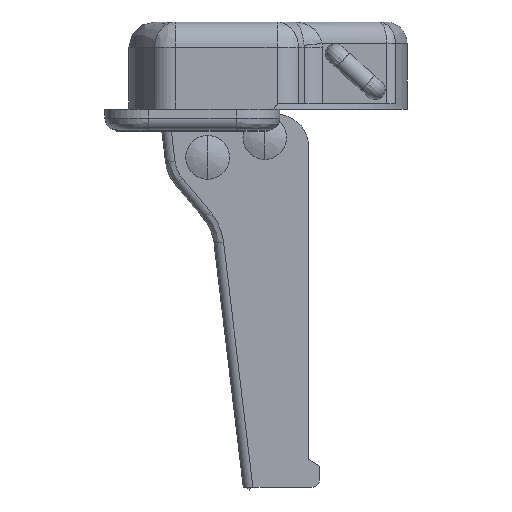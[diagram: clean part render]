
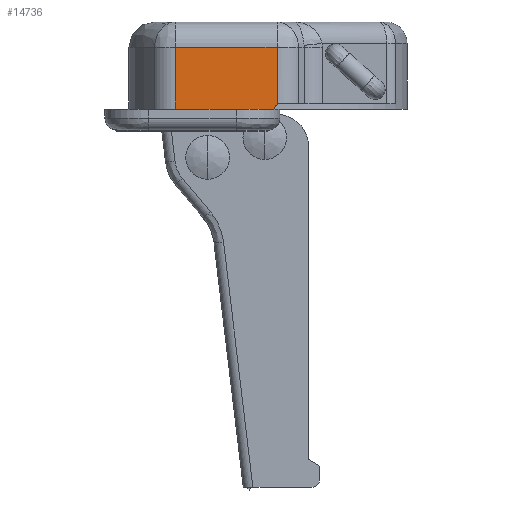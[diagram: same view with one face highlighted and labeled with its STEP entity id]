
A CAD part, left-side view. The second image highlights one B-rep face of the part: STEP entity #14736.
In plain terms, the highlighted planar face has unit normal (-1, 0, 0).
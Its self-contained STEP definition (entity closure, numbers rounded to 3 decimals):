
#1519 = ORIENTED_EDGE ( 'NONE', *, *, #25552, .T. ) ;
#1520 = ORIENTED_EDGE ( 'NONE', *, *, #25448, .F. ) ;
#1521 = ORIENTED_EDGE ( 'NONE', *, *, #25554, .T. ) ;
#1522 = ORIENTED_EDGE ( 'NONE', *, *, #25553, .F. ) ;
#1523 = ORIENTED_EDGE ( 'NONE', *, *, #25449, .F. ) ;
#1524 = ORIENTED_EDGE ( 'NONE', *, *, #25555, .T. ) ;
#3830 = LINE ( 'NONE', #24905, #3832 ) ;
#3831 = LINE ( 'NONE', #24907, #3834 ) ;
#3832 = VECTOR ( 'NONE', #24906, 1000. ) ;
#3834 = VECTOR ( 'NONE', #24908, 1000. ) ;
#4020 = CIRCLE ( 'NONE', #22511, 0.7 ) ;
#4027 = LINE ( 'NONE', #18178, #4030 ) ;
#4029 = LINE ( 'NONE', #18181, #4033 ) ;
#4030 = VECTOR ( 'NONE', #18180, 1000. ) ;
#4032 = LINE ( 'NONE', #18185, #4035 ) ;
#4033 = VECTOR ( 'NONE', #18179, 1000. ) ;
#4035 = VECTOR ( 'NONE', #18186, 1000. ) ;
#5560 = VERTEX_POINT ( 'NONE', #20078 ) ;
#5563 = VERTEX_POINT ( 'NONE', #20081 ) ;
#5591 = VERTEX_POINT ( 'NONE', #20109 ) ;
#5904 = EDGE_LOOP ( 'NONE', ( #1520, #1519, #1522, #1521, #1524, #1523 ) ) ;
#7302 = CARTESIAN_POINT ( 'NONE',  ( -11.5, -10.182, 19.791 ) ) ;
#9331 = CARTESIAN_POINT ( 'NONE',  ( -11.5, -20.024, 30.692 ) ) ;
#9335 = PLANE ( 'NONE',  #22294 ) ;
#9337 = DIRECTION ( 'NONE',  ( 1., 0., 0. ) ) ;
#9338 = DIRECTION ( 'NONE',  ( 0., 0.174, -0.985 ) ) ;
#14736 = ADVANCED_FACE ( 'NONE', ( #32407 ), #9335, .F. ) ;
#18178 = CARTESIAN_POINT ( 'NONE',  ( -11.5, -9.503, 19.91 ) ) ;
#18179 = DIRECTION ( 'NONE',  ( 0., -0.985, -0.174 ) ) ;
#18180 = DIRECTION ( 'NONE',  ( 0., -0.985, -0.174 ) ) ;
#18181 = CARTESIAN_POINT ( 'NONE',  ( -11.5, -14.239, 18.717 ) ) ;
#18182 = CARTESIAN_POINT ( 'NONE',  ( -11.5, -10.06, 19.101 ) ) ;
#18183 = DIRECTION ( 'NONE',  ( -1., 0., 0. ) ) ;
#18184 = DIRECTION ( 'NONE',  ( 0., -1., 0. ) ) ;
#18185 = CARTESIAN_POINT ( 'NONE',  ( -11.5, -18.913, 24.39 ) ) ;
#18186 = DIRECTION ( 'NONE',  ( 0., -0.174, 0.985 ) ) ;
#19376 = VERTEX_POINT ( 'NONE', #7302 ) ;
#19381 = VERTEX_POINT ( 'NONE', #24167 ) ;
#19385 = VERTEX_POINT ( 'NONE', #24171 ) ;
#20078 = CARTESIAN_POINT ( 'NONE',  ( -11.5, -20.024, 30.692 ) ) ;
#20081 = CARTESIAN_POINT ( 'NONE',  ( -11.5, -9.099, 19.982 ) ) ;
#20109 = CARTESIAN_POINT ( 'NONE',  ( -11.5, -11.26, 32.237 ) ) ;
#22294 = AXIS2_PLACEMENT_3D ( 'NONE', #9331, #9337, #9338 ) ;
#22511 = AXIS2_PLACEMENT_3D ( 'NONE', #18182, #18183, #18184 ) ;
#24167 = CARTESIAN_POINT ( 'NONE',  ( -11.5, -17.802, 18.089 ) ) ;
#24171 = CARTESIAN_POINT ( 'NONE',  ( -11.5, -10.719, 19.338 ) ) ;
#24905 = CARTESIAN_POINT ( 'NONE',  ( -11.5, -10.149, 25.936 ) ) ;
#24906 = DIRECTION ( 'NONE',  ( 0., -0.174, 0.985 ) ) ;
#24907 = CARTESIAN_POINT ( 'NONE',  ( -11.5, -15.642, 31.465 ) ) ;
#24908 = DIRECTION ( 'NONE',  ( 0., -0.985, -0.174 ) ) ;
#25448 = EDGE_CURVE ( 'NONE', #5563, #5591, #3830, .T. ) ;
#25449 = EDGE_CURVE ( 'NONE', #5591, #5560, #3831, .T. ) ;
#25552 = EDGE_CURVE ( 'NONE', #5563, #19376, #4027, .T. ) ;
#25553 = EDGE_CURVE ( 'NONE', #19385, #19376, #4020, .T. ) ;
#25554 = EDGE_CURVE ( 'NONE', #19385, #19381, #4029, .T. ) ;
#25555 = EDGE_CURVE ( 'NONE', #19381, #5560, #4032, .T. ) ;
#32407 = FACE_OUTER_BOUND ( 'NONE', #5904, .T. ) ;
